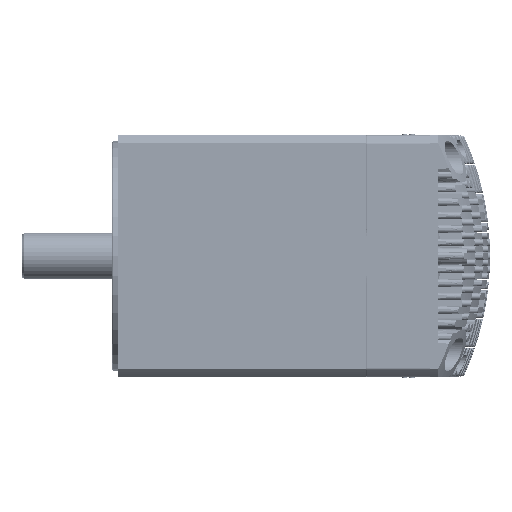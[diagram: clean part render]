
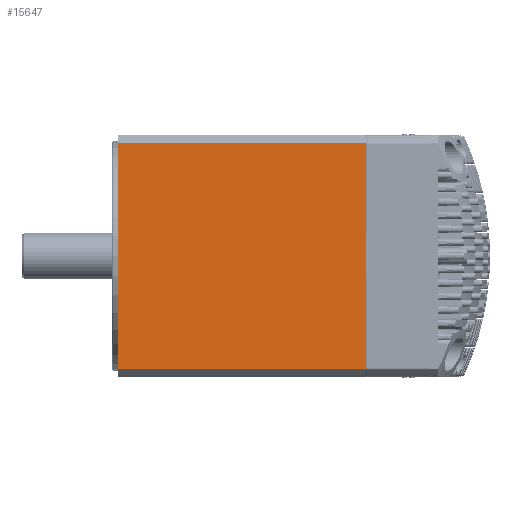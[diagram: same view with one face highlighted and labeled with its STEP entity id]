
A CAD part, front view. The second image highlights one B-rep face of the part: STEP entity #15647.
In plain terms, the highlighted planar face has unit normal (0, -1, 0).
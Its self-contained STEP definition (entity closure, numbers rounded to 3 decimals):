
#4850=DIRECTION('',(0.,0.,-1.));
#4851=VECTOR('',#4850,93.643);
#4852=CARTESIAN_POINT('',(3.5,-50.,46.821));
#4853=LINE('',#4852,#4851);
#4857=DIRECTION('',(-1.,0.,0.));
#4858=VECTOR('',#4857,102.5);
#4859=CARTESIAN_POINT('',(106.,-50.,46.821));
#4860=LINE('',#4859,#4858);
#4864=DIRECTION('',(0.,0.,-1.));
#4865=VECTOR('',#4864,93.643);
#4866=CARTESIAN_POINT('',(106.,-50.,46.821));
#4867=LINE('',#4866,#4865);
#4871=DIRECTION('',(-1.,0.,0.));
#4872=VECTOR('',#4871,102.5);
#4873=CARTESIAN_POINT('',(106.,-50.,-46.821));
#4874=LINE('',#4873,#4872);
#10411=CARTESIAN_POINT('',(106.,-50.,46.821));
#10412=CARTESIAN_POINT('',(106.,-50.,-46.821));
#10413=VERTEX_POINT('',#10411);
#10414=VERTEX_POINT('',#10412);
#10427=CARTESIAN_POINT('',(3.5,-50.,46.821));
#10428=CARTESIAN_POINT('',(3.5,-50.,-46.821));
#10429=VERTEX_POINT('',#10427);
#10430=VERTEX_POINT('',#10428);
#15636=CARTESIAN_POINT('',(0.,-50.,50.));
#15637=DIRECTION('',(0.,-1.,0.));
#15638=DIRECTION('',(0.,0.,-1.));
#15639=AXIS2_PLACEMENT_3D('',#15636,#15637,#15638);
#15640=PLANE('',#15639);
#15641=ORIENTED_EDGE('',*,*,#11666,.F.);
#15642=ORIENTED_EDGE('',*,*,#15631,.F.);
#15643=ORIENTED_EDGE('',*,*,#15535,.T.);
#15644=ORIENTED_EDGE('',*,*,#15616,.T.);
#15645=EDGE_LOOP('',(#15641,#15642,#15643,#15644));
#15646=FACE_OUTER_BOUND('',#15645,.F.);
#11666=EDGE_CURVE('',#10429,#10430,#4853,.T.);
#15535=EDGE_CURVE('',#10413,#10414,#4867,.T.);
#15616=EDGE_CURVE('',#10414,#10430,#4874,.T.);
#15631=EDGE_CURVE('',#10413,#10429,#4860,.T.);
#15647=ADVANCED_FACE('',(#15646),#15640,.T.);
